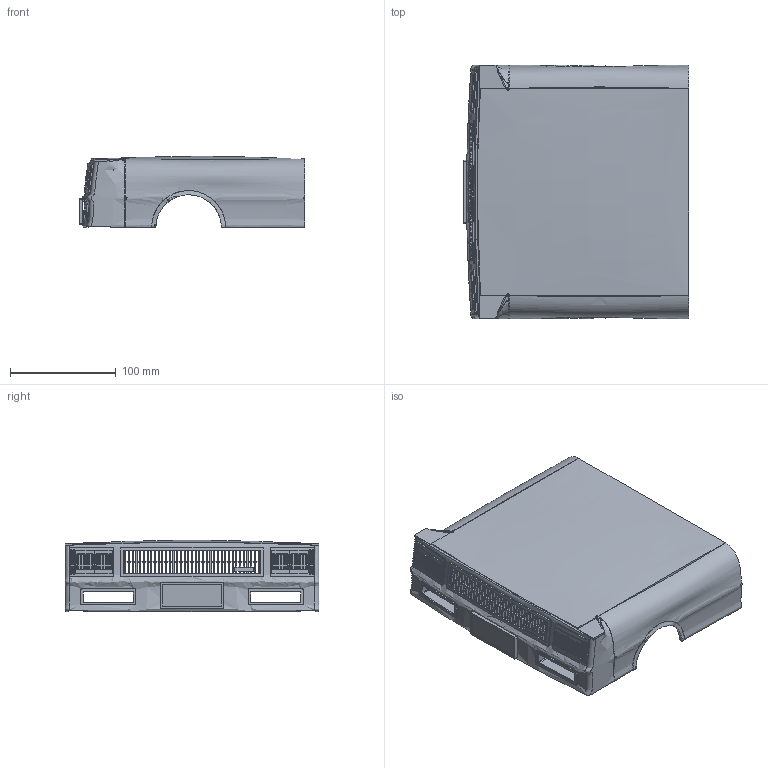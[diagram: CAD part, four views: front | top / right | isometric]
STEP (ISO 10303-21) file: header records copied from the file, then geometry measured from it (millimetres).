
FILE_DESCRIPTION(('Open CASCADE Model'),'2;1');
FILE_NAME('Open CASCADE Shape Model','2026-10-28T14:57:21',('Author'),( 'Open CASCADE'),'Open CASCADE STEP processor 7.8','Open CASCADE 7.8' ,'Unknown');
FILE_SCHEMA(('AUTOMOTIVE_DESIGN { 1 0 10303 214 1 1 1 1 }'));
Length unit declared in the file: millimetre
Products named in the file (22): BUICK_REGAL_1987_FRENTE_240MM; 01_parachoque_dianteiro; 02_grade_central; 03_carcaca_farois_esquerdo; 04_carcaca_farois_direito; 05_lente_farol_direito_1; 05_lente_farol_direito_2; 05_lente_farol_esquerdo_1; 05_lente_farol_esquerdo_2; 06_lente_pisca_direito; 06_lente_pisca_esquerdo; 07_moldura_farol_direito_1; 07_moldura_farol_direito_2; 07_moldura_farol_esquerdo_1; 07_moldura_farol_esquerdo_2; 08_duto_inferior_esquerdo; 09_duto_inferior_direito; 10_suporte_interno_grade; 11_placa_opcional; 12_paralama_esquerdo; 13_paralama_direito; 14_capo
Assembly tree (21 placements, depth 2):
  BUICK_REGAL_1987_FRENTE_240MM
    01_parachoque_dianteiro
    02_grade_central
    03_carcaca_farois_esquerdo
    04_carcaca_farois_direito
    05_lente_farol_direito_1
    05_lente_farol_direito_2
    05_lente_farol_esquerdo_1
    05_lente_farol_esquerdo_2
    06_lente_pisca_direito
    06_lente_pisca_esquerdo
    07_moldura_farol_direito_1
    07_moldura_farol_direito_2
    07_moldura_farol_esquerdo_1
    07_moldura_farol_esquerdo_2
    08_duto_inferior_esquerdo
    09_duto_inferior_direito
    10_suporte_interno_grade
    11_placa_opcional
    12_paralama_esquerdo
    13_paralama_direito
    14_capo
Bounding box: 213.6 x 240 x 67.34 mm (x, y, z)
Volume: 184793.6 mm3; surface area: 214252.3 mm2
Topology: 21 solids, 21 shells, 1408 faces, 4433 edges, 2976 vertices
Faces by surface type: plane 863, bspline 277, cylinder 268
Full cylindrical faces by diameter (mm): 4 x4, 4.6 x4, 6 x4
Entity records: 547017 total; most frequent: CARTESIAN_POINT 473462, ORIENTED_EDGE 8866, PCURVE 8866, DEFINITIONAL_REPRESENTATION 8866, DIRECTION 8372, B_SPLINE_CURVE_WITH_KNOTS 7372, LINE 5631, VECTOR 5631
